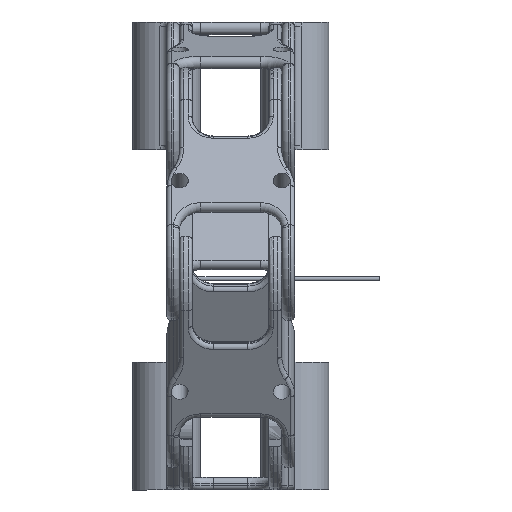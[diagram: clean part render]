
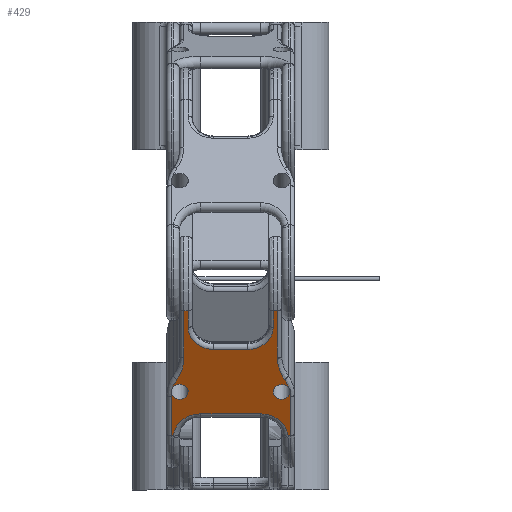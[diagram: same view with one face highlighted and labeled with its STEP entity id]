
A CAD part, front view. The second image highlights one B-rep face of the part: STEP entity #429.
In plain terms, the highlighted planar face has unit normal (0, -0.866, -0.5) as drawn and (-1, 0, 0) by its records, which use the part's own axes.
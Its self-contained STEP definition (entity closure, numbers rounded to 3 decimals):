
#133=CARTESIAN_POINT('',(-15.,9.932,-22.63));
#134=VERTEX_POINT('',#133);
#135=CARTESIAN_POINT('',(-15.0,11.535,-22.95));
#136=VERTEX_POINT('',#135);
#148=CARTESIAN_POINT('',(-15.,11.09,-21.0));
#149=DIRECTION('',(1.0,0.0,0.0));
#150=DIRECTION('',(0.0,-1.0,0.0));
#151=AXIS2_PLACEMENT_3D('',#148,#149,#150);
#152=CIRCLE('',#151,2.0);
#153=EDGE_CURVE('',#136,#134,#152,.T.);
#228=CARTESIAN_POINT('',(-15.,9.09,0.0));
#229=DIRECTION('',(-1.0,0.0,0.0));
#230=DIRECTION('',(0.0,0.0,1.0));
#231=AXIS2_PLACEMENT_3D('',#228,#229,#230);
#232=PLANE('',#231);
#233=ORIENTED_EDGE('',*,*,#153,.T.);
#234=CARTESIAN_POINT('',(-15.,7.743,-21.65));
#235=VERTEX_POINT('',#234);
#236=CARTESIAN_POINT('',(-15.0,12.484,-14.0));
#237=DIRECTION('',(-1.0,0.,0.));
#238=DIRECTION('',(0.,-0.274,-0.962));
#239=AXIS2_PLACEMENT_3D('',#236,#237,#238);
#240=CIRCLE('',#239,9.);
#241=EDGE_CURVE('',#134,#235,#240,.T.);
#242=ORIENTED_EDGE('',*,*,#241,.T.);
#243=CARTESIAN_POINT('',(-15.,1.948,-20.0));
#244=VERTEX_POINT('',#243);
#245=CARTESIAN_POINT('',(-15.,1.948,-31.0));
#246=DIRECTION('',(1.,0.,0.));
#247=DIRECTION('',(0.,0.274,0.962));
#248=AXIS2_PLACEMENT_3D('',#245,#246,#247);
#249=CIRCLE('',#248,11.0);
#250=EDGE_CURVE('',#235,#244,#249,.T.);
#251=ORIENTED_EDGE('',*,*,#250,.T.);
#252=CARTESIAN_POINT('',(-15.,-10.91,-20.0));
#253=VERTEX_POINT('',#252);
#254=CARTESIAN_POINT('',(-15.,1.948,-20.0));
#255=DIRECTION('',(0.0,-1.0,0.0));
#256=VECTOR('',#255,12.859);
#257=LINE('',#254,#256);
#258=EDGE_CURVE('',#244,#253,#257,.T.);
#259=ORIENTED_EDGE('',*,*,#258,.T.);
#260=CARTESIAN_POINT('',(-15.,-10.91,-19.0));
#261=VERTEX_POINT('',#260);
#262=CARTESIAN_POINT('',(-15.,-10.91,-19.0));
#263=DIRECTION('',(0.0,0.0,-1.0));
#264=VECTOR('',#263,1.0);
#265=LINE('',#262,#264);
#266=EDGE_CURVE('',#261,#253,#265,.T.);
#267=ORIENTED_EDGE('',*,*,#266,.F.);
#268=CARTESIAN_POINT('',(-15.,-6.41,-19.0));
#269=VERTEX_POINT('',#268);
#270=CARTESIAN_POINT('',(-15.,-6.41,-19.0));
#271=DIRECTION('',(0.0,-1.0,0.0));
#272=VECTOR('',#271,4.5);
#273=LINE('',#270,#272);
#274=EDGE_CURVE('',#269,#261,#273,.T.);
#275=ORIENTED_EDGE('',*,*,#274,.F.);
#276=CARTESIAN_POINT('',(-15.,-0.41,-13.0));
#277=VERTEX_POINT('',#276);
#278=CARTESIAN_POINT('',(-15.,-6.41,-13.0));
#279=DIRECTION('',(-1.0,0.,0.));
#280=DIRECTION('',(0.,0.707,-0.707));
#281=AXIS2_PLACEMENT_3D('',#278,#279,#280);
#282=CIRCLE('',#281,6.);
#283=EDGE_CURVE('',#277,#269,#282,.T.);
#284=ORIENTED_EDGE('',*,*,#283,.F.);
#285=CARTESIAN_POINT('',(-15.,-0.41,-5.0));
#286=VERTEX_POINT('',#285);
#287=CARTESIAN_POINT('',(-15.,-0.41,-5.0));
#288=DIRECTION('',(0.0,0.0,-1.0));
#289=VECTOR('',#288,8.0);
#290=LINE('',#287,#289);
#291=EDGE_CURVE('',#286,#277,#290,.T.);
#292=ORIENTED_EDGE('',*,*,#291,.F.);
#293=CARTESIAN_POINT('',(-15.,-6.41,1.));
#294=VERTEX_POINT('',#293);
#295=CARTESIAN_POINT('',(-15.,-6.41,-5.0));
#296=DIRECTION('',(-1.0,0.,0.));
#297=DIRECTION('',(0.,0.707,0.707));
#298=AXIS2_PLACEMENT_3D('',#295,#296,#297);
#299=CIRCLE('',#298,6.);
#300=EDGE_CURVE('',#294,#286,#299,.T.);
#301=ORIENTED_EDGE('',*,*,#300,.F.);
#302=CARTESIAN_POINT('',(-15.,-10.91,1.0));
#303=VERTEX_POINT('',#302);
#304=CARTESIAN_POINT('',(-15.,-10.91,1.0));
#305=DIRECTION('',(0.0,1.0,0.0));
#306=VECTOR('',#305,4.5);
#307=LINE('',#304,#306);
#308=EDGE_CURVE('',#303,#294,#307,.T.);
#309=ORIENTED_EDGE('',*,*,#308,.F.);
#310=CARTESIAN_POINT('',(-15.,-10.91,2.));
#311=VERTEX_POINT('',#310);
#312=CARTESIAN_POINT('',(-15.,-10.91,1.0));
#313=DIRECTION('',(0.0,0.0,1.0));
#314=VECTOR('',#313,1.);
#315=LINE('',#312,#314);
#316=EDGE_CURVE('',#303,#311,#315,.T.);
#317=ORIENTED_EDGE('',*,*,#316,.T.);
#318=CARTESIAN_POINT('',(-15.,1.948,2.));
#319=VERTEX_POINT('',#318);
#320=CARTESIAN_POINT('',(-15.,1.948,2.));
#321=DIRECTION('',(0.0,-1.0,0.0));
#322=VECTOR('',#321,12.859);
#323=LINE('',#320,#322);
#324=EDGE_CURVE('',#319,#311,#323,.T.);
#325=ORIENTED_EDGE('',*,*,#324,.F.);
#326=CARTESIAN_POINT('',(-15.,7.743,3.65));
#327=VERTEX_POINT('',#326);
#328=CARTESIAN_POINT('',(-15.,1.948,13.0));
#329=DIRECTION('',(-1.,0.,0.));
#330=DIRECTION('',(0.,0.274,-0.962));
#331=AXIS2_PLACEMENT_3D('',#328,#329,#330);
#332=CIRCLE('',#331,11.0);
#333=EDGE_CURVE('',#327,#319,#332,.T.);
#334=ORIENTED_EDGE('',*,*,#333,.F.);
#335=CARTESIAN_POINT('',(-15.,9.932,4.63));
#336=VERTEX_POINT('',#335);
#337=CARTESIAN_POINT('',(-15.0,12.484,-4.));
#338=DIRECTION('',(1.0,0.,0.));
#339=DIRECTION('',(0.,-0.274,0.962));
#340=AXIS2_PLACEMENT_3D('',#337,#338,#339);
#341=CIRCLE('',#340,9.);
#342=EDGE_CURVE('',#336,#327,#341,.T.);
#343=ORIENTED_EDGE('',*,*,#342,.F.);
#344=CARTESIAN_POINT('',(-15.,11.535,4.95));
#345=VERTEX_POINT('',#344);
#346=CARTESIAN_POINT('',(-15.,11.09,3.));
#347=DIRECTION('',(1.0,0.0,0.0));
#348=DIRECTION('',(0.0,-1.0,0.0));
#349=AXIS2_PLACEMENT_3D('',#346,#347,#348);
#350=CIRCLE('',#349,2.0);
#351=EDGE_CURVE('',#336,#345,#350,.T.);
#352=ORIENTED_EDGE('',*,*,#351,.T.);
#353=CARTESIAN_POINT('',(-15.0,12.484,5.));
#354=VERTEX_POINT('',#353);
#355=CARTESIAN_POINT('',(-15.0,12.484,-4.));
#356=DIRECTION('',(1.0,0.,0.));
#357=DIRECTION('',(0.,-0.274,0.962));
#358=AXIS2_PLACEMENT_3D('',#355,#356,#357);
#359=CIRCLE('',#358,9.);
#360=EDGE_CURVE('',#354,#345,#359,.T.);
#361=ORIENTED_EDGE('',*,*,#360,.F.);
#362=CARTESIAN_POINT('',(-15.,23.09,5.));
#363=VERTEX_POINT('',#362);
#364=CARTESIAN_POINT('',(-15.,23.09,5.));
#365=DIRECTION('',(0.0,-1.0,0.0));
#366=VECTOR('',#365,10.606);
#367=LINE('',#364,#366);
#368=EDGE_CURVE('',#363,#354,#367,.T.);
#369=ORIENTED_EDGE('',*,*,#368,.F.);
#370=CARTESIAN_POINT('',(-15.,23.09,4.481));
#371=VERTEX_POINT('',#370);
#372=CARTESIAN_POINT('',(-15.,23.09,4.481));
#373=DIRECTION('',(0.0,0.0,1.0));
#374=VECTOR('',#373,0.519);
#375=LINE('',#372,#374);
#376=EDGE_CURVE('',#371,#363,#375,.T.);
#377=ORIENTED_EDGE('',*,*,#376,.F.);
#378=CARTESIAN_POINT('',(-15.,17.09,-2.0));
#379=VERTEX_POINT('',#378);
#380=CARTESIAN_POINT('',(-15.,23.59,-2.0));
#381=DIRECTION('',(-1.0,0.,0.));
#382=DIRECTION('',(0.,-0.742,0.671));
#383=AXIS2_PLACEMENT_3D('',#380,#381,#382);
#384=CIRCLE('',#383,6.5);
#385=EDGE_CURVE('',#379,#371,#384,.T.);
#386=ORIENTED_EDGE('',*,*,#385,.F.);
#387=CARTESIAN_POINT('',(-15.,17.09,-16.0));
#388=VERTEX_POINT('',#387);
#389=CARTESIAN_POINT('',(-15.,17.09,-16.0));
#390=DIRECTION('',(0.0,0.0,1.0));
#391=VECTOR('',#390,14.0);
#392=LINE('',#389,#391);
#393=EDGE_CURVE('',#388,#379,#392,.T.);
#394=ORIENTED_EDGE('',*,*,#393,.F.);
#395=CARTESIAN_POINT('',(-15.,23.09,-22.481));
#396=VERTEX_POINT('',#395);
#397=CARTESIAN_POINT('',(-15.,23.59,-16.0));
#398=DIRECTION('',(-1.0,0.,0.));
#399=DIRECTION('',(0.,-0.742,-0.671));
#400=AXIS2_PLACEMENT_3D('',#397,#398,#399);
#401=CIRCLE('',#400,6.5);
#402=EDGE_CURVE('',#396,#388,#401,.T.);
#403=ORIENTED_EDGE('',*,*,#402,.F.);
#404=CARTESIAN_POINT('',(-15.,23.09,-23.));
#405=VERTEX_POINT('',#404);
#406=CARTESIAN_POINT('',(-15.,23.09,-22.481));
#407=DIRECTION('',(0.0,0.,-1.0));
#408=VECTOR('',#407,0.519);
#409=LINE('',#406,#408);
#410=EDGE_CURVE('',#396,#405,#409,.T.);
#411=ORIENTED_EDGE('',*,*,#410,.T.);
#412=CARTESIAN_POINT('',(-15.0,12.484,-23.));
#413=VERTEX_POINT('',#412);
#414=CARTESIAN_POINT('',(-15.,23.09,-23.));
#415=DIRECTION('',(0.0,-1.0,0.0));
#416=VECTOR('',#415,10.606);
#417=LINE('',#414,#416);
#418=EDGE_CURVE('',#405,#413,#417,.T.);
#419=ORIENTED_EDGE('',*,*,#418,.T.);
#420=CARTESIAN_POINT('',(-15.0,12.484,-14.0));
#421=DIRECTION('',(-1.0,0.,0.));
#422=DIRECTION('',(0.,-0.274,-0.962));
#423=AXIS2_PLACEMENT_3D('',#420,#421,#422);
#424=CIRCLE('',#423,9.);
#425=EDGE_CURVE('',#413,#136,#424,.T.);
#426=ORIENTED_EDGE('',*,*,#425,.T.);
#427=EDGE_LOOP('',(#233,#242,#251,#259,#267,#275,#284,#292,#301,#309,#317,#325,#334,#343,#352,#361,#369,#377,#386,#394,#403,#411,#419,#426));
#428=FACE_OUTER_BOUND('',#427,.T.);
#429=ADVANCED_FACE('',(#428),#232,.T.);
